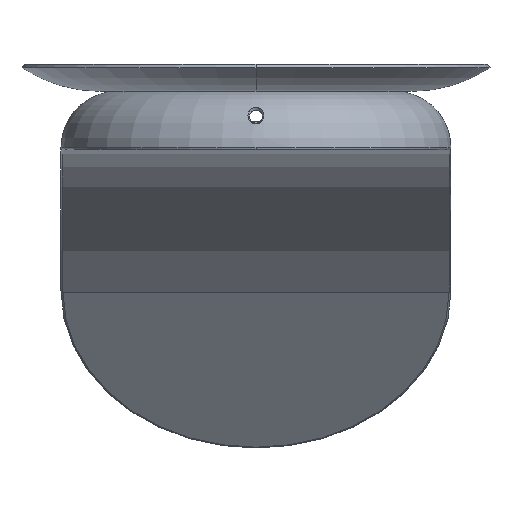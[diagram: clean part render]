
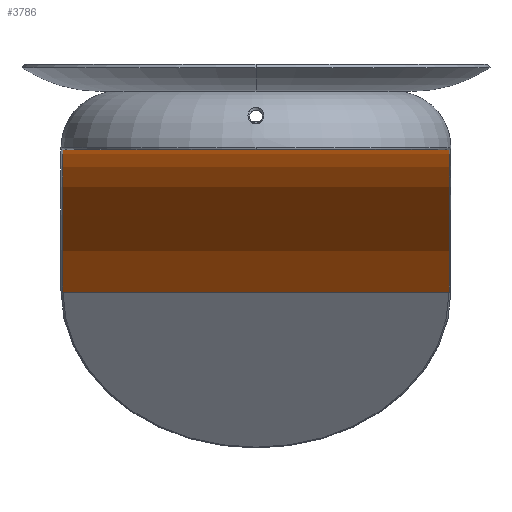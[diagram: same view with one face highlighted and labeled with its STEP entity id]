
A CAD part, front view. The second image highlights one B-rep face of the part: STEP entity #3786.
In plain terms, the highlighted cylindrical face has radius 90 mm (diameter 180 mm), a partial arc.
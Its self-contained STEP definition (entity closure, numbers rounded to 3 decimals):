
#331 = ORIENTED_EDGE ( 'NONE', *, *, #2333, .F. ) ;
#416 = CARTESIAN_POINT ( 'NONE',  ( 49.5, 72.347, -36.466 ) ) ;
#474 = CARTESIAN_POINT ( 'NONE',  ( -49.5, 0., 0. ) ) ;
#697 = CIRCLE ( 'NONE', #2435, 90. ) ;
#1144 = EDGE_CURVE ( 'NONE', #6042, #6120, #4257, .T. ) ;
#1483 = AXIS2_PLACEMENT_3D ( 'NONE', #10028, #8933, #3794 ) ;
#1496 = AXIS2_PLACEMENT_3D ( 'NONE', #10035, #11048, #4539 ) ;
#1950 = CYLINDRICAL_SURFACE ( 'NONE', #1496, 90. ) ;
#2088 = ORIENTED_EDGE ( 'NONE', *, *, #1144, .T. ) ;
#2333 = EDGE_CURVE ( 'NONE', #9174, #2680, #10419, .T. ) ;
#2435 = AXIS2_PLACEMENT_3D ( 'NONE', #7499, #6587, #2963 ) ;
#2680 = VERTEX_POINT ( 'NONE', #2748 ) ;
#2748 = CARTESIAN_POINT ( 'NONE',  ( -49.5, 72.347, -36.466 ) ) ;
#2963 = DIRECTION ( 'NONE',  ( 0., 0., 1. ) ) ;
#3212 = EDGE_CURVE ( 'NONE', #6120, #2680, #7253, .T. ) ;
#3352 = DIRECTION ( 'NONE',  ( -1., 0., 0. ) ) ;
#3786 = ADVANCED_FACE ( 'NONE', ( #8102 ), #1950, .F. ) ;
#3794 = DIRECTION ( 'NONE',  ( 0., 0., 1. ) ) ;
#4257 = LINE ( 'NONE', #5048, #8435 ) ;
#4539 = DIRECTION ( 'NONE',  ( 0., 0., 1. ) ) ;
#4935 = DIRECTION ( 'NONE',  ( -1., 0., 0. ) ) ;
#5048 = CARTESIAN_POINT ( 'NONE',  ( 50., 0., 0. ) ) ;
#5223 = ORIENTED_EDGE ( 'NONE', *, *, #11770, .T. ) ;
#6042 = VERTEX_POINT ( 'NONE', #8429 ) ;
#6115 = VECTOR ( 'NONE', #4935, 1000. ) ;
#6120 = VERTEX_POINT ( 'NONE', #474 ) ;
#6587 = DIRECTION ( 'NONE',  ( 1., 0., 0. ) ) ;
#6820 = EDGE_LOOP ( 'NONE', ( #331, #5223, #2088, #9721 ) ) ;
#7253 = CIRCLE ( 'NONE', #1483, 90. ) ;
#7499 = CARTESIAN_POINT ( 'NONE',  ( 49.5, 0., -90. ) ) ;
#8102 = FACE_OUTER_BOUND ( 'NONE', #6820, .T. ) ;
#8429 = CARTESIAN_POINT ( 'NONE',  ( 49.5, 0., 0. ) ) ;
#8435 = VECTOR ( 'NONE', #3352, 1000. ) ;
#8933 = DIRECTION ( 'NONE',  ( -1., 0., 0. ) ) ;
#9174 = VERTEX_POINT ( 'NONE', #416 ) ;
#9515 = CARTESIAN_POINT ( 'NONE',  ( 50., 72.347, -36.466 ) ) ;
#9721 = ORIENTED_EDGE ( 'NONE', *, *, #3212, .T. ) ;
#10028 = CARTESIAN_POINT ( 'NONE',  ( -49.5, 0., -90. ) ) ;
#10035 = CARTESIAN_POINT ( 'NONE',  ( 50., 0., -90. ) ) ;
#10419 = LINE ( 'NONE', #9515, #6115 ) ;
#11048 = DIRECTION ( 'NONE',  ( -1., 0., 0. ) ) ;
#11770 = EDGE_CURVE ( 'NONE', #9174, #6042, #697, .T. ) ;
